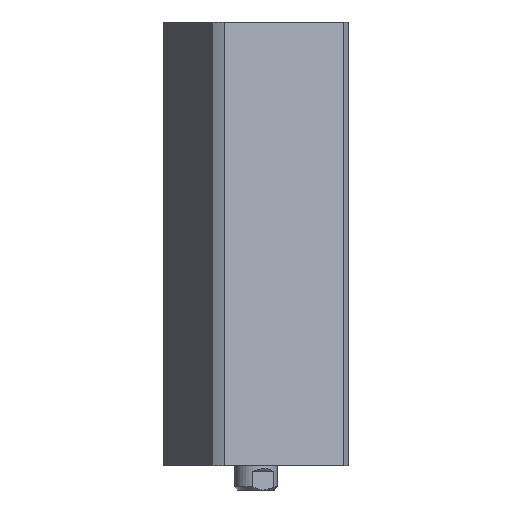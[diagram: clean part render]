
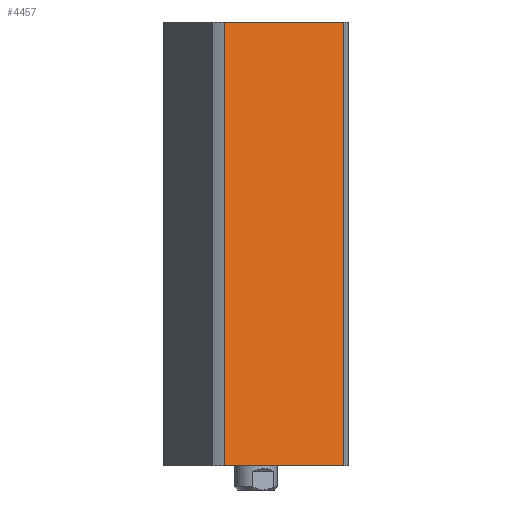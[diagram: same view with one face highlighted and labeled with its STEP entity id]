
A CAD part, left-side view. The second image highlights one B-rep face of the part: STEP entity #4457.
In plain terms, the highlighted planar face has unit normal (-0.924, -0.383, 0) as drawn and (1, 0, 0) by its records, which use the part's own axes.
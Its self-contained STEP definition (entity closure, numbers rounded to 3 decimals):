
#337 = ORIENTED_EDGE ( 'NONE', *, *, #1806, .F. ) ;
#418 = DIRECTION ( 'NONE',  ( 0., -1., 0. ) ) ;
#441 = ORIENTED_EDGE ( 'NONE', *, *, #1547, .T. ) ;
#590 = DIRECTION ( 'NONE',  ( 0., 0., -1. ) ) ;
#651 = LINE ( 'NONE', #2164, #5438 ) ;
#1126 = VECTOR ( 'NONE', #6532, 1000. ) ;
#1168 = LINE ( 'NONE', #2588, #2657 ) ;
#1234 = EDGE_CURVE ( 'NONE', #7938, #6607, #651, .T. ) ;
#1270 = CARTESIAN_POINT ( 'NONE',  ( 24., -21.166, 0. ) ) ;
#1536 = CARTESIAN_POINT ( 'NONE',  ( 24., 24., 0. ) ) ;
#1547 = EDGE_CURVE ( 'NONE', #3206, #7676, #4451, .T. ) ;
#1806 = EDGE_CURVE ( 'NONE', #6607, #7676, #5726, .T. ) ;
#2164 = CARTESIAN_POINT ( 'NONE',  ( 24., 24., 145. ) ) ;
#2263 = CARTESIAN_POINT ( 'NONE',  ( 24., 24., 145. ) ) ;
#2564 = AXIS2_PLACEMENT_3D ( 'NONE', #2263, #4177, #418 ) ;
#2583 = FACE_OUTER_BOUND ( 'NONE', #7013, .T. ) ;
#2588 = CARTESIAN_POINT ( 'NONE',  ( 24., -21.166, -155. ) ) ;
#2612 = DIRECTION ( 'NONE',  ( 0., 1., 0. ) ) ;
#2614 = CARTESIAN_POINT ( 'NONE',  ( 24., -21.166, 145. ) ) ;
#2657 = VECTOR ( 'NONE', #6933, 1000. ) ;
#3005 = CARTESIAN_POINT ( 'NONE',  ( 24., 21.166, 0. ) ) ;
#3206 = VERTEX_POINT ( 'NONE', #1270 ) ;
#3382 = ORIENTED_EDGE ( 'NONE', *, *, #1234, .F. ) ;
#3535 = PLANE ( 'NONE',  #2564 ) ;
#4079 = VECTOR ( 'NONE', #590, 1000. ) ;
#4177 = DIRECTION ( 'NONE',  ( -1., 0., 0. ) ) ;
#4451 = LINE ( 'NONE', #1536, #1126 ) ;
#4457 = ADVANCED_FACE ( 'NONE', ( #2583 ), #3535, .F. ) ;
#5438 = VECTOR ( 'NONE', #2612, 1000. ) ;
#5679 = CARTESIAN_POINT ( 'NONE',  ( 24., 21.166, 145. ) ) ;
#5710 = ORIENTED_EDGE ( 'NONE', *, *, #7878, .F. ) ;
#5726 = LINE ( 'NONE', #6804, #4079 ) ;
#6532 = DIRECTION ( 'NONE',  ( 0., 1., 0. ) ) ;
#6607 = VERTEX_POINT ( 'NONE', #5679 ) ;
#6804 = CARTESIAN_POINT ( 'NONE',  ( 24., 21.166, -155. ) ) ;
#6933 = DIRECTION ( 'NONE',  ( 0., 0., 1. ) ) ;
#7013 = EDGE_LOOP ( 'NONE', ( #5710, #441, #337, #3382 ) ) ;
#7676 = VERTEX_POINT ( 'NONE', #3005 ) ;
#7878 = EDGE_CURVE ( 'NONE', #3206, #7938, #1168, .T. ) ;
#7938 = VERTEX_POINT ( 'NONE', #2614 ) ;
